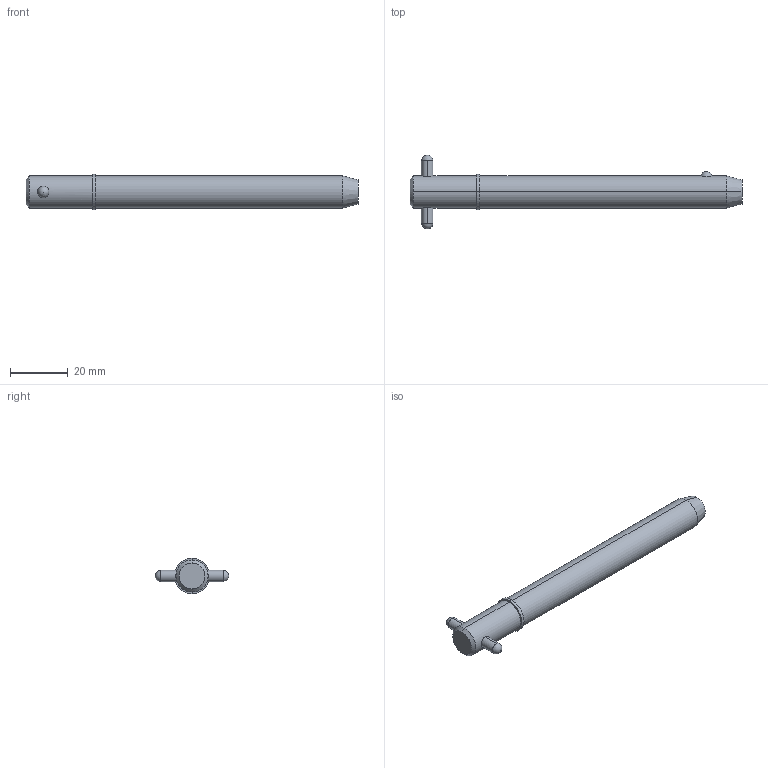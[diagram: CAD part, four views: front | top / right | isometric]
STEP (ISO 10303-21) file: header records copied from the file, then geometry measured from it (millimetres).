
FILE_DESCRIPTION (( 'STEP AP203' ), '1' );
FILE_NAME ('33018.W4330.step', '2024-11-19T17:13:14', ( '' ), ( '' ), 'SwSTEP 2.0', 'SolidWorks 2019', '' );
FILE_SCHEMA (( 'CONFIG_CONTROL_DESIGN' ));
Length unit declared in the file: millimetre
Products named in the file (3): Part2_33018.W4330; 33018.W4330; Part1_33018.W4330
Assembly tree (2 placements, depth 2):
  33018.W4330
    Part1_33018.W4330
    Part2_33018.W4330
Bounding box: 114.6 x 25.4 x 12.22 mm (x, y, z)
Volume: 11171 mm3; surface area: 4588 mm2
Topology: 2 solids, 2 shells, 22 faces, 47 edges, 30 vertices
Faces by surface type: cylinder 10, sphere 4, cone 4, plane 4
Entity records: 1031 total; most frequent: CARTESIAN_POINT 274, DIRECTION 110, ORIENTED_EDGE 82, AXIS2_PLACEMENT_3D 48, EDGE_CURVE 41, EDGE_LOOP 27, PERSON_AND_ORGANIZATION 26, VERTEX_POINT 26
